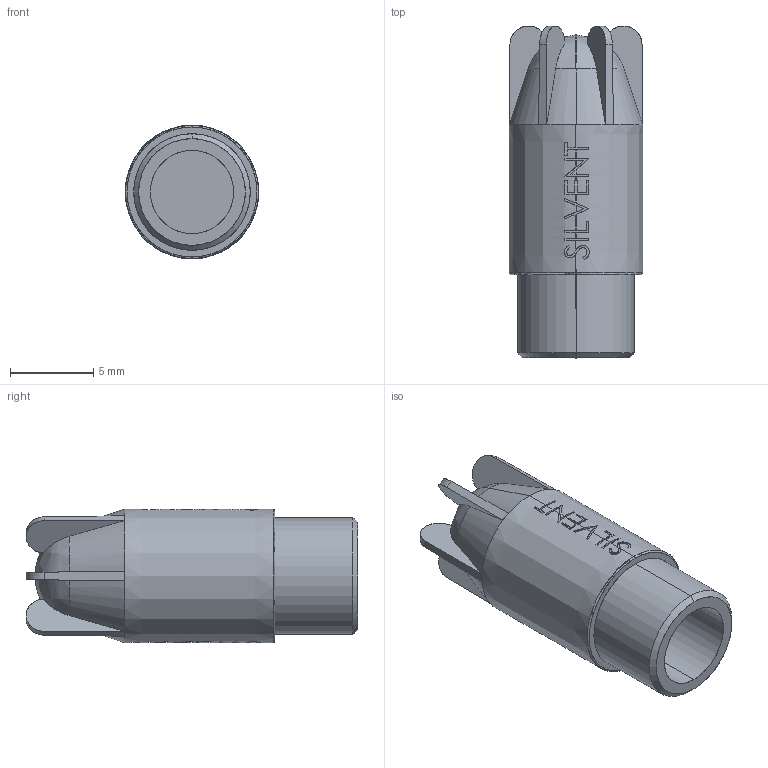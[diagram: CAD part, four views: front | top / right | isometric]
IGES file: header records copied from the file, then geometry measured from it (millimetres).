
Start section: SolidWorks IGES file using analytic representation for surfaces
Global section: file name: G:\Silvent\Ritningar\Övrigt\IGES\Silvent 1003.IGS; native system: SolidWorks 2006 by SolidWorks Corporation; preprocessor: SolidWorks 2006 by SolidWorks Corporation; author: silvpesv; date: 070829.082254; units: millimetre
Bounding box: 8.03 x 19.93 x 8.03 mm (x, y, z)
Surface area: 773.1 mm2 (no closed solid volume)
Topology: 0 solids, 0 shells, 240 faces, 2249 edges, 2247 vertices
Faces by surface type: bspline 206, revolution 34
